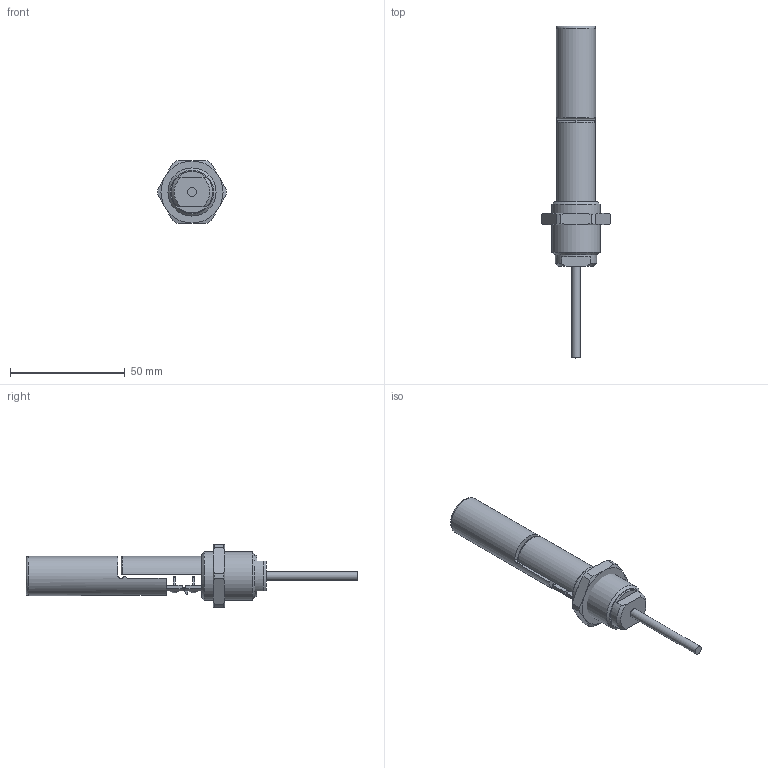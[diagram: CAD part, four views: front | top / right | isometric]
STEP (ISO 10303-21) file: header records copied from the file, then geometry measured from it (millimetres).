
FILE_DESCRIPTION(/* description */ ('Katalogmodell Elobau'),/* implementation_level */ '2;1');
FILE_NAME(/* name */ '205KS__G_A.stp',/* time_stamp */ '2014-10-01T13:39:02+02:00',/* author */ ('Elobau GmbH & Co. KG'),/* organization */ ('Elobau GmbH & Co. KG'),/* preprocessor_version */ 'ST-DEVELOPER v15',/* originating_system */ 'SIEMENS PLM Software NX 8.5',/* authorisation */ '');
FILE_SCHEMA (('AUTOMOTIVE_DESIGN { 1 0 10303 214 3 1 1 1 }'));
Length unit declared in the file: millimetre
Products named in the file (1): 205KS..G_A
Bounding box: 29.99 x 144.5 x 27 mm (x, y, z)
Volume: 27798.3 mm3; surface area: 10111.8 mm2
Topology: 3 solids, 3 shells, 109 faces, 273 edges, 178 vertices
Faces by surface type: plane 63, cone 20, cylinder 17, bspline 6, sphere 2, torus 1
Full cylindrical faces by diameter (mm): 3.8 x1, 17 x1, 18 x1, 20.955 x1
Entity records: 4176 total; most frequent: CARTESIAN_POINT 898, ORIENTED_EDGE 520, DIRECTION 482, EDGE_CURVE 260, AXIS2_PLACEMENT_3D 178, VERTEX_POINT 176, EDGE_LOOP 126, LINE 126
